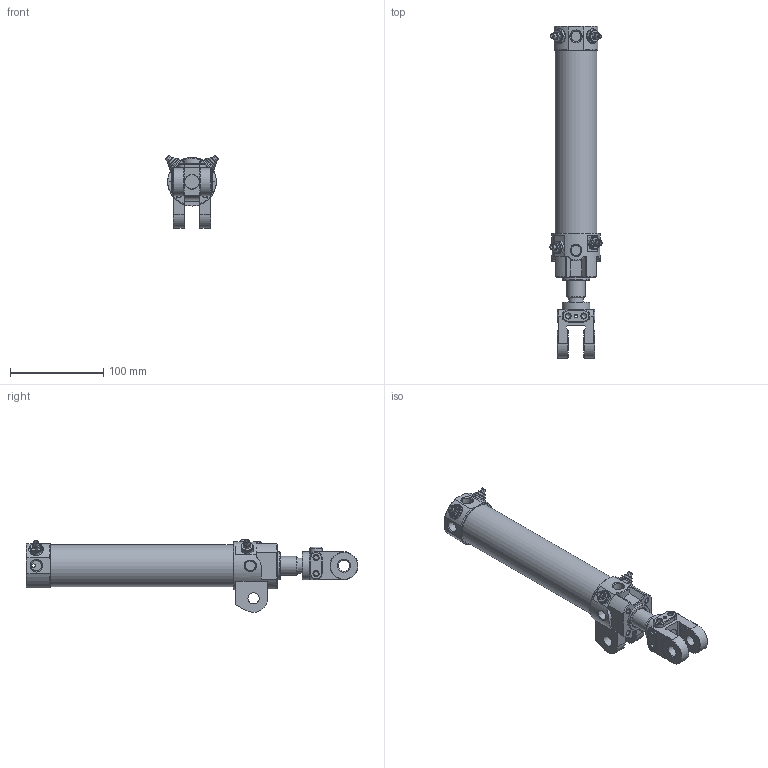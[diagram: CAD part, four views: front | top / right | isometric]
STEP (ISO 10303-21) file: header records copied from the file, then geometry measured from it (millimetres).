
FILE_DESCRIPTION((''),'2;1');
FILE_NAME('I:\3D電子目錄\氣缸\DCK\DCK\DCK-1A-40x150-Y.stp','2008-02-26T11:12:18',('Administrator'),(''),'Autodesk Inventor 11','Autodesk Inventor 11','');
FILE_SCHEMA(('AUTOMOTIVE_DESIGN { 1 0 10303 214 1 1 1 1 }'));
Length unit declared in the file: millimetre
Products named in the file (6): DCK-1A-40-Y; 緩衝針; 緩衝針-1; 緩衝針-201; 緩衝針-3
Assembly tree (8 placements, depth 3):
  DCK-1A-40-Y
    DCK-1A-40-Y
    緩衝針  x4
      緩衝針-1
      緩衝針-201
      緩衝針-3
Bounding box: 56.06 x 356 x 78.02 mm (x, y, z)
Volume: 252336.8 mm3; surface area: 119574.6 mm2
Topology: 15 solids, 15 shells, 731 faces, 1686 edges, 1042 vertices
Faces by surface type: plane 241, cylinder 217, cone 148, bspline 83, torus 40, sphere 2
Full cylindrical faces by diameter (mm): 2 x1, 3 x3, 3.8 x2, 4 x6, 4.6 x4, 5 x8, 5.1 x4, 5.2 x12, 5.5 x4, 7 x1, 7.25 x1, 7.9 x4, 8 x2, 8.3 x1, 10 x2, 12 x4, 12.8 x4, 16 x3, 20 x1, 21 x1, 22 x3, 23 x1, 24.7 x1, 26 x1, 28 x1, 29 x1, 30 x4, 33 x1, 40 x1, 42 x2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
Entity records: 25578 total; most frequent: CARTESIAN_POINT 15451, DIRECTION 1979, ORIENTED_EDGE 1952, EDGE_CURVE 976, AXIS2_PLACEMENT_3D 846, EDGE_LOOP 687, VERTEX_POINT 677, FACE_OUTER_BOUND 480
